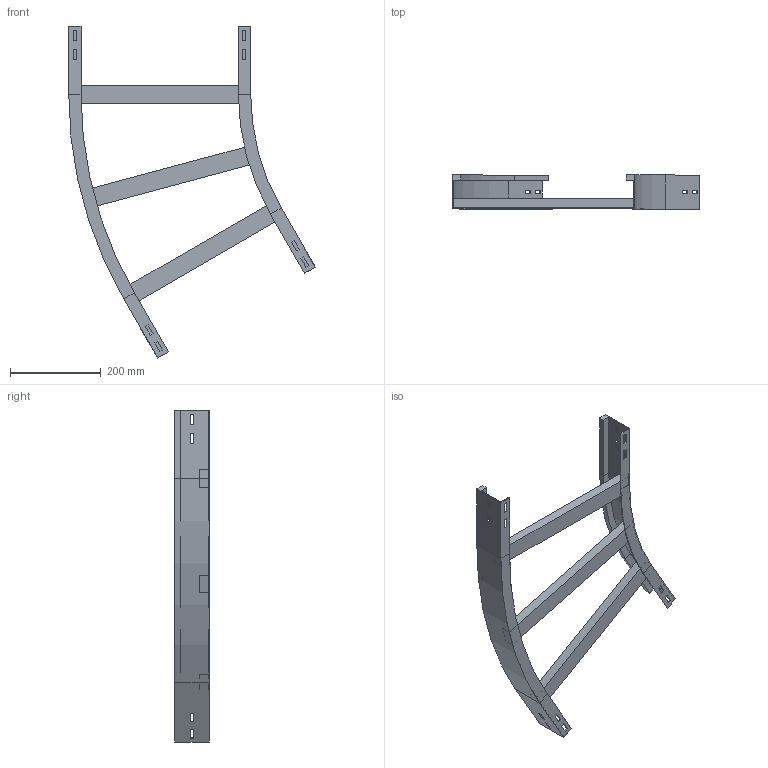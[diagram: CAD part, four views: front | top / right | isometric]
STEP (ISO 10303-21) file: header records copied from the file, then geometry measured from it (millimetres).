
FILE_DESCRIPTION (( 'STEP AP214' ), '1' );
FILE_NAME ('12B5C400.step', '2025-02-21T15:10:05', ( '' ), ( '' ), 'SwSTEP 2.0', 'SolidWorks 2023', '' );
FILE_SCHEMA (( 'AUTOMOTIVE_DESIGN' ));
Length unit declared in the file: millimetre
Products named in the file (4): TRAVERSINO_400; A2_LONGH.ESTERNO 30°_H75_R500+400; 12B5C400; A2_LONGH.INTERNO 30°_H75_R500
Assembly tree (5 placements, depth 2):
  12B5C400
    A2_LONGH.INTERNO 30°_H75_R500
    A2_LONGH.ESTERNO 30°_H75_R500+400
    TRAVERSINO_400  x3
Bounding box: 541.99 x 75 x 729.9 mm (x, y, z)
Volume: 1479903 mm3; surface area: 461701 mm2
Topology: 5 solids, 5 shells, 134 faces, 340 edges, 216 vertices
Faces by surface type: plane 126, cylinder 8
Entity records: 3821 total; most frequent: CARTESIAN_POINT 646, ORIENTED_EDGE 632, DIRECTION 592, EDGE_CURVE 316, LINE 300, VECTOR 300, VERTEX_POINT 200, EDGE_LOOP 154
